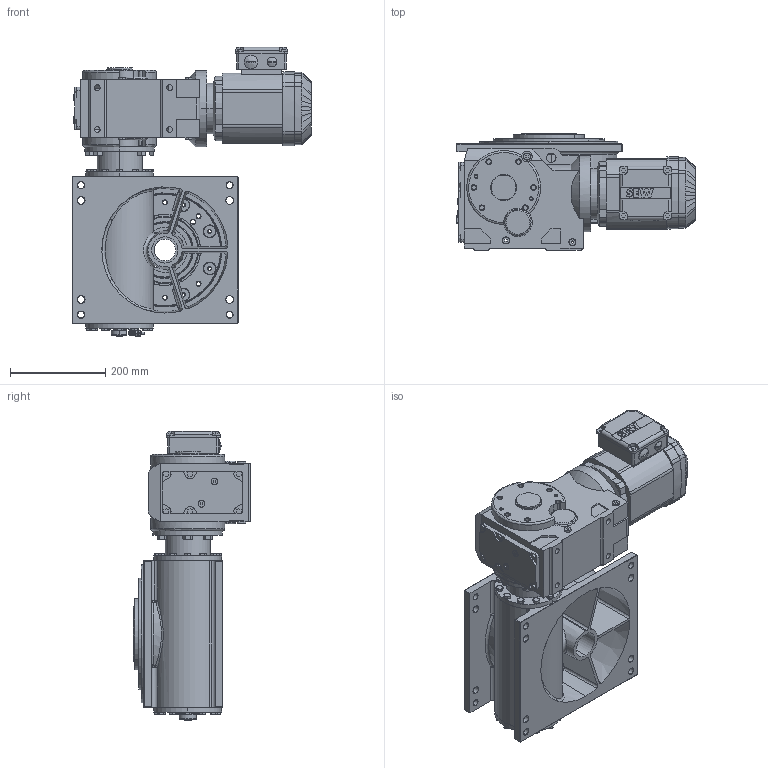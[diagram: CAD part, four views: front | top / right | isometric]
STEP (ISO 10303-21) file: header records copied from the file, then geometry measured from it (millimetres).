
FILE_DESCRIPTION (( 'STEP AP214' ), '1' );
FILE_NAME ('M235_SEW_KA57DRE80S4_D1_12.STEP', '2020-06-17T05:35:18', ( '' ), ( '' ), 'SwSTEP 2.0', 'SolidWorks 2020', '' );
FILE_SCHEMA (( 'AUTOMOTIVE_DESIGN' ));
Length unit declared in the file: millimetre
Products named in the file (1): M235_SEW_KA57DRE80S4_D1_12
Bounding box: 502 x 246 x 607.5 mm (x, y, z)
Surface area: 1184433.9 mm2 (no closed solid volume)
Topology: 0 solids, 102 shells, 1678 faces, 5010 edges, 3333 vertices
Faces by surface type: plane 660, cylinder 500, cone 331, bspline 144, torus 27, sphere 16
Entity records: 86520 total; most frequent: CARTESIAN_POINT 24491, DIRECTION 8997, ORIENTED_EDGE 8507, EDGE_CURVE 4993, AXIS2_PLACEMENT_3D 3349, VERTEX_POINT 3333, LINE 2299, VECTOR 2299
